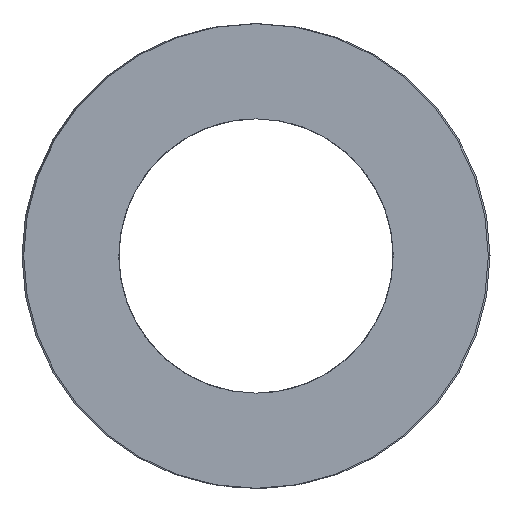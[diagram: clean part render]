
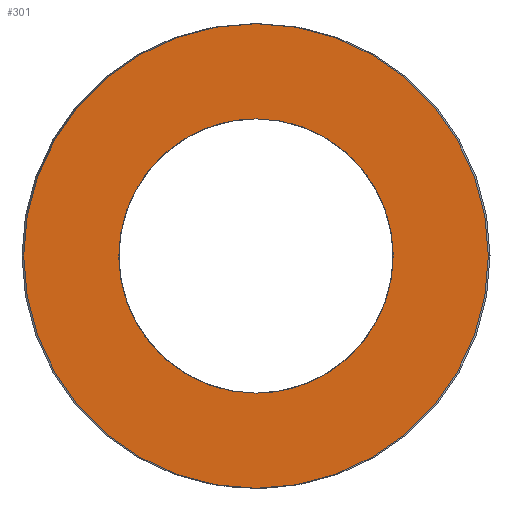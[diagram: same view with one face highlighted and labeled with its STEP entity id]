
A CAD part, left-side view. The second image highlights one B-rep face of the part: STEP entity #301.
In plain terms, the highlighted planar face has unit normal (-1, 0, 0).
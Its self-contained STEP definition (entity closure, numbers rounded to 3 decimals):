
#63=CARTESIAN_POINT('Vertex',(0.,6.1,0.)) ;
#77=CARTESIAN_POINT('Vertex',(0.,-6.1,0.)) ;
#80=CARTESIAN_POINT('Axis2P3D Location',(0.,0.,0.)) ;
#97=CARTESIAN_POINT('Axis2P3D Location',(0.,0.,0.)) ;
#232=CARTESIAN_POINT('Axis2P3D Location',(0.,3.05,0.)) ;
#242=CARTESIAN_POINT('Control Point',(0.,0.,-3.6)) ;
#243=CARTESIAN_POINT('Control Point',(0.,0.372,-3.6)) ;
#244=CARTESIAN_POINT('Control Point',(0.,0.744,-3.552)) ;
#245=CARTESIAN_POINT('Control Point',(0.,1.107,-3.456)) ;
#246=CARTESIAN_POINT('Control Point',(0.,1.801,-3.172)) ;
#247=CARTESIAN_POINT('Control Point',(0.,2.4,-2.722)) ;
#248=CARTESIAN_POINT('Control Point',(0.,2.669,-2.459)) ;
#249=CARTESIAN_POINT('Control Point',(0.,3.133,-1.869)) ;
#250=CARTESIAN_POINT('Control Point',(0.,3.431,-1.182)) ;
#251=CARTESIAN_POINT('Control Point',(0.,3.535,-0.82)) ;
#252=CARTESIAN_POINT('Control Point',(0.,3.647,-0.079)) ;
#253=CARTESIAN_POINT('Control Point',(0.,3.567,0.667)) ;
#254=CARTESIAN_POINT('Control Point',(0.,3.479,1.032)) ;
#255=CARTESIAN_POINT('Control Point',(0.,3.21,1.732)) ;
#256=CARTESIAN_POINT('Control Point',(0.,2.773,2.341)) ;
#257=CARTESIAN_POINT('Control Point',(0.,2.516,2.615)) ;
#258=CARTESIAN_POINT('Control Point',(0.,1.937,3.092)) ;
#259=CARTESIAN_POINT('Control Point',(0.,1.255,3.405)) ;
#260=CARTESIAN_POINT('Control Point',(0.,0.896,3.517)) ;
#261=CARTESIAN_POINT('Control Point',(0.,0.496,3.586)) ;
#262=CARTESIAN_POINT('Control Point',(0.,0.093,3.599)) ;
#263=CARTESIAN_POINT('Control Point',(0.,0.062,3.6)) ;
#264=CARTESIAN_POINT('Control Point',(0.,0.031,3.6)) ;
#265=CARTESIAN_POINT('Control Point',(0.,0.,3.6)) ;
#266=CARTESIAN_POINT('Vertex',(0.,0.,-3.6)) ;
#268=CARTESIAN_POINT('Vertex',(0.,0.,3.6)) ;
#272=CARTESIAN_POINT('Control Point',(0.,0.,3.6)) ;
#273=CARTESIAN_POINT('Control Point',(0.,-0.372,3.6)) ;
#274=CARTESIAN_POINT('Control Point',(0.,-0.744,3.552)) ;
#275=CARTESIAN_POINT('Control Point',(0.,-1.107,3.456)) ;
#276=CARTESIAN_POINT('Control Point',(0.,-1.801,3.172)) ;
#277=CARTESIAN_POINT('Control Point',(0.,-2.4,2.722)) ;
#278=CARTESIAN_POINT('Control Point',(0.,-2.669,2.459)) ;
#279=CARTESIAN_POINT('Control Point',(0.,-3.133,1.869)) ;
#280=CARTESIAN_POINT('Control Point',(0.,-3.431,1.182)) ;
#281=CARTESIAN_POINT('Control Point',(0.,-3.535,0.82)) ;
#282=CARTESIAN_POINT('Control Point',(0.,-3.647,0.079)) ;
#283=CARTESIAN_POINT('Control Point',(0.,-3.567,-0.667)) ;
#284=CARTESIAN_POINT('Control Point',(0.,-3.479,-1.032)) ;
#285=CARTESIAN_POINT('Control Point',(0.,-3.21,-1.732)) ;
#286=CARTESIAN_POINT('Control Point',(0.,-2.773,-2.341)) ;
#287=CARTESIAN_POINT('Control Point',(0.,-2.516,-2.615)) ;
#288=CARTESIAN_POINT('Control Point',(0.,-1.937,-3.092)) ;
#289=CARTESIAN_POINT('Control Point',(0.,-1.255,-3.405)) ;
#290=CARTESIAN_POINT('Control Point',(0.,-0.896,-3.517)) ;
#291=CARTESIAN_POINT('Control Point',(0.,-0.496,-3.586)) ;
#292=CARTESIAN_POINT('Control Point',(0.,-0.093,-3.599)) ;
#293=CARTESIAN_POINT('Control Point',(0.,-0.062,-3.6)) ;
#294=CARTESIAN_POINT('Control Point',(0.,-0.031,-3.6)) ;
#295=CARTESIAN_POINT('Control Point',(0.,0.,-3.6)) ;
#81=DIRECTION('Axis2P3D Direction',(1.,-0.,0.)) ;
#98=DIRECTION('Axis2P3D Direction',(1.,-0.,0.)) ;
#233=DIRECTION('Axis2P3D Direction',(-1.,0.,0.)) ;
#234=DIRECTION('Axis2P3D XDirection',(0.,1.,0.)) ;
#82=AXIS2_PLACEMENT_3D('Circle Axis2P3D',#80,#81,$) ;
#99=AXIS2_PLACEMENT_3D('Circle Axis2P3D',#97,#98,$) ;
#235=AXIS2_PLACEMENT_3D('Plane Axis2P3D',#232,#233,#234) ;
#238=ORIENTED_EDGE('',*,*,#84,.T.) ;
#239=ORIENTED_EDGE('',*,*,#101,.T.) ;
#298=ORIENTED_EDGE('',*,*,#270,.T.) ;
#299=ORIENTED_EDGE('',*,*,#296,.T.) ;
#300=FACE_BOUND('',#297,.T.) ;
#301=ADVANCED_FACE('392-B13-305',(#240,#300),#236,.T.) ;
#241=B_SPLINE_CURVE_WITH_KNOTS('',5,(#242,#243,#244,#245,#246,#247,#248,#249,#250,#251,#252,#253,#254,#255,#256,#257,#258,#259,#260,#261,#262,#263,#264,#265),.UNSPECIFIED.,.F.,.U.,(6,3,3,3,3,3,3,6),(0.,2.629,5.258,7.887,10.516,13.145,15.774,15.994),.UNSPECIFIED.) ;
#271=B_SPLINE_CURVE_WITH_KNOTS('',5,(#272,#273,#274,#275,#276,#277,#278,#279,#280,#281,#282,#283,#284,#285,#286,#287,#288,#289,#290,#291,#292,#293,#294,#295),.UNSPECIFIED.,.F.,.U.,(6,3,3,3,3,3,3,6),(0.,2.629,5.258,7.887,10.516,13.145,15.774,15.994),.UNSPECIFIED.) ;
#83=CIRCLE('generated circle',#82,6.1) ;
#100=CIRCLE('generated circle',#99,6.1) ;
#84=EDGE_CURVE('',#64,#78,#83,.F.) ;
#101=EDGE_CURVE('',#78,#64,#100,.F.) ;
#270=EDGE_CURVE('',#267,#269,#241,.T.) ;
#296=EDGE_CURVE('',#269,#267,#271,.T.) ;
#237=EDGE_LOOP('',(#238,#239)) ;
#297=EDGE_LOOP('',(#298,#299)) ;
#240=FACE_OUTER_BOUND('',#237,.T.) ;
#236=PLANE('Plane',#235) ;
#64=VERTEX_POINT('',#63) ;
#78=VERTEX_POINT('',#77) ;
#267=VERTEX_POINT('',#266) ;
#269=VERTEX_POINT('',#268) ;
